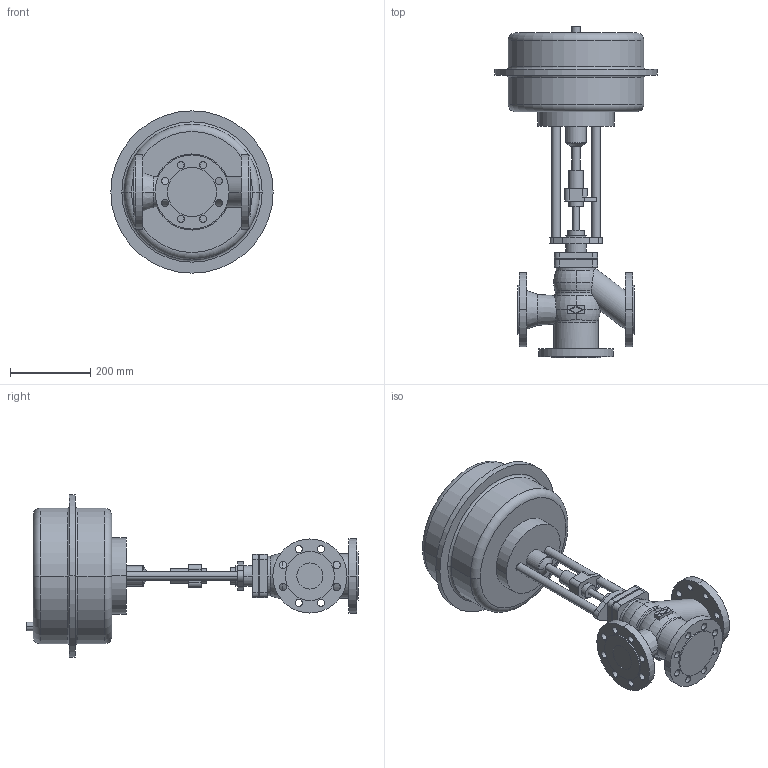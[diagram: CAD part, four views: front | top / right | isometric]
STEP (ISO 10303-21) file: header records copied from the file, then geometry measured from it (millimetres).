
FILE_DESCRIPTION(('OneSpaceDesigner STEP Export'),'2;1');
FILE_NAME('c000000694.stp','2006-09-19T10:18:33',(''),(''),'OneSpace Designer STEP processor for AP214 (Solid Model)','OneSpace Designer 13.20A 18-Aug-2005 (C) CoCreate Software GmbH','');
FILE_SCHEMA(('AUTOMOTIVE_DESIGN { 1 0 10303 214 1 1 1 1 }'));
Length unit declared in the file: millimetre
Products named in the file (2): 1; 2
Bounding box: 405 x 828.5 x 405 mm (x, y, z)
Volume: 24460177.1 mm3; surface area: 895356.8 mm2
Topology: 2 solids, 2 shells, 228 faces, 571 edges, 375 vertices
Faces by surface type: cylinder 118, plane 76, torus 28, cone 6
Entity records: 6165 total; most frequent: CARTESIAN_POINT 1160, ORIENTED_EDGE 1142, DIRECTION 890, EDGE_CURVE 571, VERTEX_POINT 375, AXIS2_PLACEMENT_3D 327, EDGE_LOOP 304, VECTOR 236
